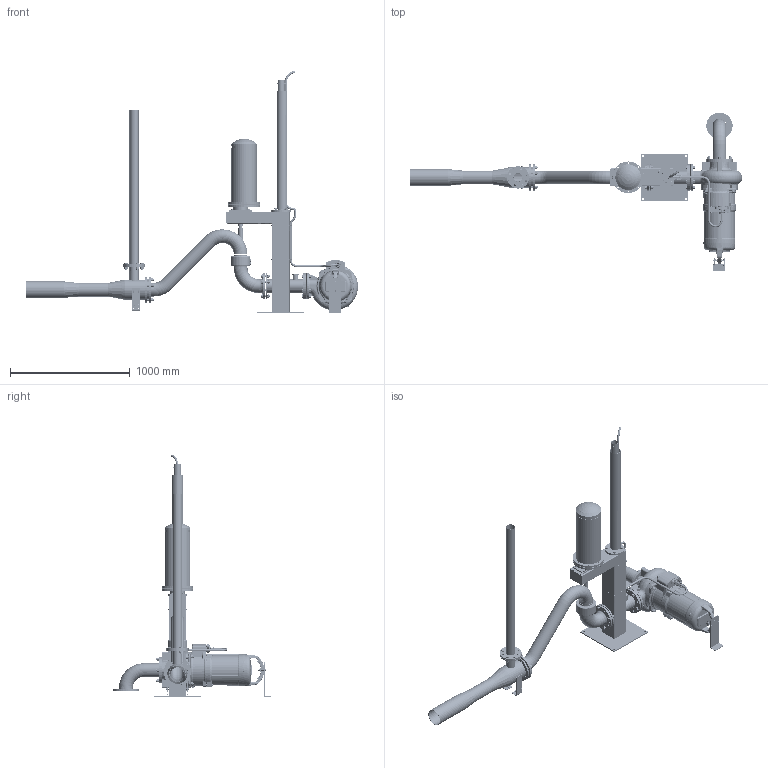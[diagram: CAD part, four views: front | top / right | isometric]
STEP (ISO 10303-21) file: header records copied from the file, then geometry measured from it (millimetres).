
FILE_DESCRIPTION(/* description */ (''),/* implementation_level */ '2;1');
FILE_NAME(/* name */ 'H:\3D\Projekte\@Schwenkjet\Schwenker_DN100\Step_Dateien\SwingAmajet_100_Bottom_suction_02_KA_16.stp',/* time_stamp */ '2021-04-12T22:57:19+02:00',/* author */ ('emmrpat'),/* organization */ (''),/* preprocessor_version */ 'ST-DEVELOPER v18',/* originating_system */ 'Autodesk Inventor 2020',/* authorisation */ '');
FILE_SCHEMA (('AUTOMOTIVE_DESIGN { 1 0 10303 214 3 1 1 }'));
Length unit declared in the file: millimetre
Products named in the file (48): SwingAmajet_100_Horizontale_Aufstellung_02_V02; Neuer_Antriebsstaender_0Grad; Neuer_Antriebsstaender; Antriebsstaender_neu; Vorschweißbördel_30mm_DN100_PN10; Losflansch_DN100_PN10_20mm; DN100_01; Blindmuffe_1_1-4zoll; Muffe_1_1-4zoll_gegossen; Drehantrieb_600mm; 936100009_Kabelführungsrohr_Montageanleitung; Kabelschutzrohr_Montageanleitung; 0-05011-00-000-0-IFG-Buckelgelenk-DN100-ZSB_Teil_01; Adapterplatte_DN100_936100008; 0-05011-00-000-0-IFG-Buckelgelenk-DN100-ZSB_Teil_02; Antriebswelle; ISO 4017 - M16 x 30; ISO 4017 - M16 x 60; ISO 7089 -  10; ISO 4017 - M10 x 20; Stift_10x40mm; ISO 4017 - M16 x 70; Frankfurter-Injektor; Frankfurter-Injektor_1; Glattflansch DN100-PN10; Glattflansch_DN65_PN10_10mm_8Loch; Frankfurter-Injektor_DN65_500mm; Frankfurter-Injektor_Winkelhalter; ISO 7089 -  8; ISO 4017 - M8 x 20; ISO 4017 - M16 x 50; Kabelbinder_lueftung_einfach; Kabel_18mm_1000lang; Kabel_18mm_Bogen; Kabel_18mm_Bogen_45Grad; KRT_100-250; UG155595214_01; Kabel_18mm_100lang; Kabel_18mm_Bogen_01; Kabel_18mm_300lang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
Assembly tree (137 placements, depth 4):
  SwingAmajet_100_Horizontale_Aufstellung_02_V02
    Neuer_Antriebsstaender_0Grad
      Neuer_Antriebsstaender
        Antriebsstaender_neu
        Glattflansch DN100-PN10
        Vorschweißbördel_30mm_DN100_PN10
        Losflansch_DN100_PN10_20mm
        DN100_01
        Blindmuffe_1_1-4zoll
        Muffe_1_1-4zoll_gegossen
      Drehantrieb_600mm
      936100009_Kabelführungsrohr_Montageanleitung
      Kabelschutzrohr_Montageanleitung
      0-05011-00-000-0-IFG-Buckelgelenk-DN100-ZSB_Teil_01
      Adapterplatte_DN100_936100008
      0-05011-00-000-0-IFG-Buckelgelenk-DN100-ZSB_Teil_02
      Antriebswelle
      ISO 4017 - M16 x 30  x4
      ISO 7089 -  16  x20
      ISO 4032 - M16  x8
      ISO 4017 - M16 x 60  x4
      ISO 7089 -  10  x4
      ISO 4017 - M10 x 20  x4
      Stift_10x40mm
      ISO 4017 - M16 x 70  x4
    Frankfurter-Injektor
      Frankfurter-Injektor_1
      Glattflansch DN100-PN10
      Glattflansch_DN65_PN10_10mm_8Loch  x2
      Frankfurter-Injektor_DN65_500mm
      Frankfurter-Injektor_Winkelhalter  x2
    ISO 7089 -  8  x4
    ISO 4017 - M8 x 20  x4
    DIN 938 - M16 x 60  x8
    ISO 4032 - M16  x12
    ISO 7089 -  16  x12
    ISO 4017 - M16 x 50  x4
    Kabelbinder_lueftung_einfach  x2
    Kabel_18mm_1000lang
    Kabel_18mm_Bogen
    Kabel_18mm_Bogen_45Grad  x2
    Kabel_18mm_Bogen_01  x4
    KRT_100-250
    UG155595214_01
    Kabel_18mm_100lang
    Kabel_18mm_300lang
    Kabel
    Kabelbinder_A-Staender_einfach_a  x2
    Stützwinkel_neu_01
    Kabel_18mm_180lang
    936100_V1_Bodenabsaugung_Variante_2-2
Bounding box: 2778.19 x 1329 x 2025 mm (x, y, z)
Volume: 52010659.5 mm3; surface area: 9969976.7 mm2
Topology: 208 solids, 208 shells, 4043 faces, 9689 edges, 6181 vertices
Faces by surface type: plane 1534, cylinder 1026, bspline 667, cone 480, torus 295, sphere 41
Full cylindrical faces by diameter (mm): 3 x12, 3.05 x2, 3.3 x1, 4 x12, 5 x12, 6 x16, 6.8 x1, 7 x24, 8 x8, 8.376 x2, 8.4 x4, 8.5 x6, 10 x18, 10.5 x6, 11 x10, 11.5 x6, 11.63 x4, 12 x18, 13.378 x1, 13.835 x24, 14.63 x6, 15.25 x1, 16 x59, 16.4 x2, 16.662 x1, 16.917 x2, 17 x36, 17.1 x1, 17.5 x4, 18 x97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
Entity records: 135591 total; most frequent: CARTESIAN_POINT 60022, ORIENTED_EDGE 14942, DIRECTION 14736, EDGE_CURVE 7471, AXIS2_PLACEMENT_3D 6108, VERTEX_POINT 4778, EDGE_LOOP 3689, CIRCLE 3293
